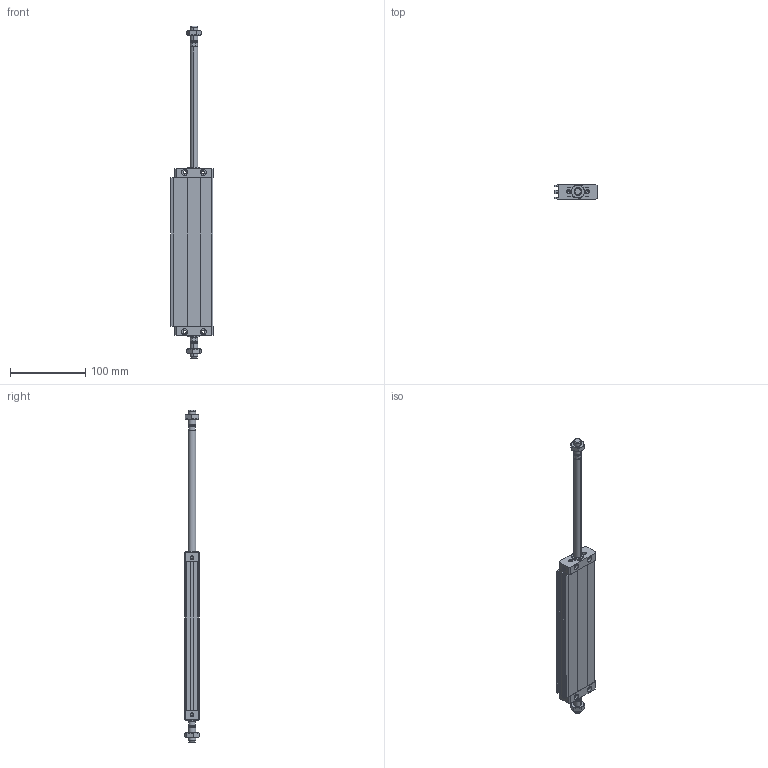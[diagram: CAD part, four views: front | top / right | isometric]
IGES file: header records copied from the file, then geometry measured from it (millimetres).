
Global section: file name: No Iges File Name specified; native system: Autodesk Inventor 2011; preprocessor: AutoDesk Inventor Iges Exporter R2011; author: airolcr1; date: 20101213.152845; units: millimetre
Bounding box: 56.25 x 20 x 442 mm (x, y, z)
Volume: 166637.5 mm3; surface area: 83909.7 mm2
Topology: 6 solids, 6 shells, 282 faces, 664 edges, 392 vertices
Faces by surface type: bspline 117, plane 97, cone 36, cylinder 18, revolution 14
